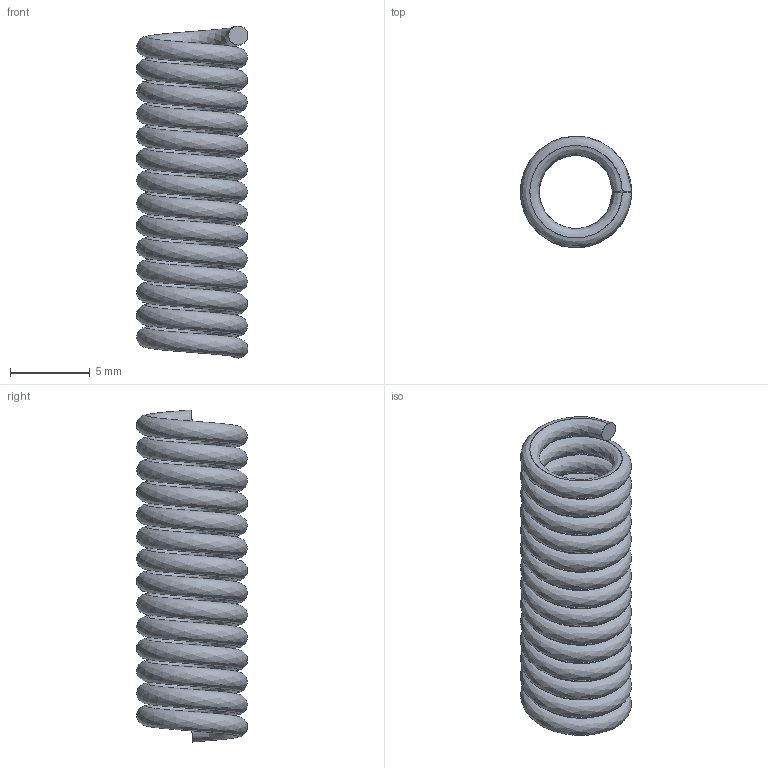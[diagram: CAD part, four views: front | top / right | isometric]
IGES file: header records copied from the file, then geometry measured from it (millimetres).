
Start section: SolidWorks IGES FILE using analytic representation for surfaces
Global section: file name: C:\Documents and Settings\lecoutey\Bureau\GP 538\538.230.00.IGS; native system: SolidWorks 2004 by SolidWorks Corporation; preprocessor: Version 5.3; author: lecoutey; date: 050329.151351; units: millimetre
Bounding box: 7 x 7 x 20.85 mm (x, y, z)
Surface area: 966.8 mm2 (no closed solid volume)
Topology: 0 solids, 0 shells, 4 faces, 40 edges, 40 vertices
Faces by surface type: bspline 4
